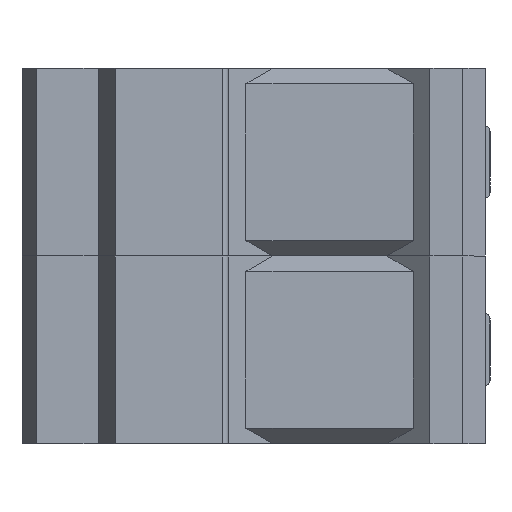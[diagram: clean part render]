
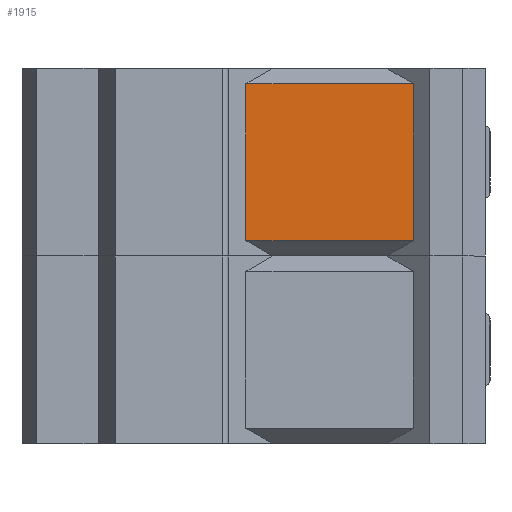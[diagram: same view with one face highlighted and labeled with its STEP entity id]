
A CAD part, left-side view. The second image highlights one B-rep face of the part: STEP entity #1915.
In plain terms, the highlighted planar face has unit normal (-1, 0, 0) as drawn and (1, 0, 0) by its records, which use the part's own axes.
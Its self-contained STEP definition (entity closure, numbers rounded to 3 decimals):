
#43 = CARTESIAN_POINT ( 'NONE',  ( 42.55, 56.7, 22.8 ) ) ;
#86 = VECTOR ( 'NONE', #611, 1000. ) ;
#187 = CARTESIAN_POINT ( 'NONE',  ( 42.55, 16., 19.05 ) ) ;
#273 = PLANE ( 'NONE',  #404 ) ;
#404 = AXIS2_PLACEMENT_3D ( 'NONE', #499, #2787, #983 ) ;
#499 = CARTESIAN_POINT ( 'NONE',  ( 42.55, 56.7, 22.8 ) ) ;
#611 = DIRECTION ( 'NONE',  ( 0., 1., 0. ) ) ;
#707 = LINE ( 'NONE', #1557, #86 ) ;
#762 = DIRECTION ( 'NONE',  ( 0., 0., -1. ) ) ;
#833 = ORIENTED_EDGE ( 'NONE', *, *, #1449, .F. ) ;
#909 = ORIENTED_EDGE ( 'NONE', *, *, #2322, .F. ) ;
#983 = DIRECTION ( 'NONE',  ( 0., 1., 0. ) ) ;
#1076 = VECTOR ( 'NONE', #2136, 1000. ) ;
#1136 = CARTESIAN_POINT ( 'NONE',  ( 42.55, 10.192, -19.05 ) ) ;
#1154 = LINE ( 'NONE', #1136, #1076 ) ;
#1191 = FACE_OUTER_BOUND ( 'NONE', #1942, .T. ) ;
#1381 = VERTEX_POINT ( 'NONE', #1752 ) ;
#1449 = EDGE_CURVE ( 'NONE', #2627, #1381, #707, .T. ) ;
#1542 = LINE ( 'NONE', #43, #1729 ) ;
#1557 = CARTESIAN_POINT ( 'NONE',  ( 42.55, 10.192, 19.05 ) ) ;
#1719 = ORIENTED_EDGE ( 'NONE', *, *, #2208, .T. ) ;
#1729 = VECTOR ( 'NONE', #2218, 1000. ) ;
#1752 = CARTESIAN_POINT ( 'NONE',  ( 42.55, 56.7, 19.05 ) ) ;
#1896 = ORIENTED_EDGE ( 'NONE', *, *, #2597, .T. ) ;
#1915 = ADVANCED_FACE ( 'NONE', ( #1191 ), #273, .F. ) ;
#1942 = EDGE_LOOP ( 'NONE', ( #833, #1719, #1896, #909 ) ) ;
#2136 = DIRECTION ( 'NONE',  ( 0., 1., 0. ) ) ;
#2147 = CARTESIAN_POINT ( 'NONE',  ( 42.55, 16., -19.05 ) ) ;
#2208 = EDGE_CURVE ( 'NONE', #2627, #2593, #2827, .T. ) ;
#2218 = DIRECTION ( 'NONE',  ( 0., 0., -1. ) ) ;
#2322 = EDGE_CURVE ( 'NONE', #1381, #2617, #1542, .T. ) ;
#2593 = VERTEX_POINT ( 'NONE', #2147 ) ;
#2597 = EDGE_CURVE ( 'NONE', #2593, #2617, #1154, .T. ) ;
#2604 = CARTESIAN_POINT ( 'NONE',  ( 42.55, 56.7, -19.05 ) ) ;
#2617 = VERTEX_POINT ( 'NONE', #2604 ) ;
#2627 = VERTEX_POINT ( 'NONE', #187 ) ;
#2743 = CARTESIAN_POINT ( 'NONE',  ( 42.55, 16., 22.8 ) ) ;
#2787 = DIRECTION ( 'NONE',  ( -1., 0., 0. ) ) ;
#2827 = LINE ( 'NONE', #2743, #2900 ) ;
#2900 = VECTOR ( 'NONE', #762, 1000. ) ;
